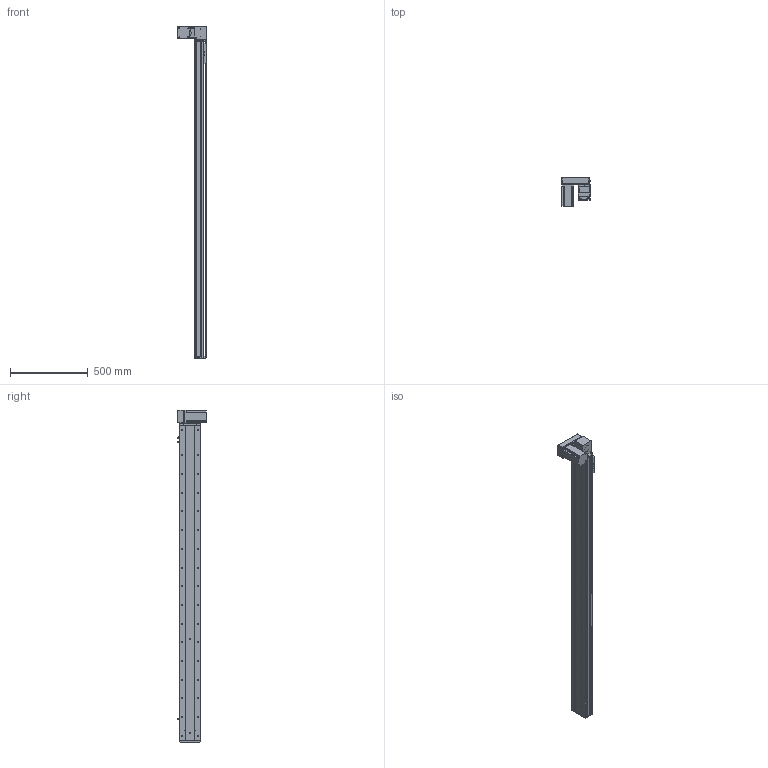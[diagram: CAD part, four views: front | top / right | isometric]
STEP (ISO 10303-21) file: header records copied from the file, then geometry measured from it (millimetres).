
FILE_DESCRIPTION (( 'STEP AP214' ), '1' );
FILE_NAME ('KSD130B-S1800-MRD-CM.STEP', '2019-09-23T01:59:29', ( '微软用户' ), ( '微软中国' ), 'SwSTEP 2.0', 'SolidWorks 2014', '' );
FILE_SCHEMA (( 'AUTOMOTIVE_DESIGN' ));
Length unit declared in the file: millimetre
Products named in the file (12): 130宽模组保护罩上下左右折-同步带; 台达ECMA－C20807AS伺服电机; 130宽模组马达安装板连板上下折丝杆同步带; 覜茼え100遵圉猾敕; U倰嫖萇EEㄜSX672; 130宽盖板半封闭同步带-1800行程; 130宽马达安装板同步带右-改镜向_默认<按加工>; 130宽马达安装板同步带半封闭; 130宽同步带安装座半封闭; 130宽端盖同步带半封闭; 130宽底板半封闭同步带-1800行程; KSD130B-S1800-MRD-CM
Assembly tree (13 placements, depth 2):
  KSD130B-S1800-MRD-CM
    130宽底板半封闭同步带-1800行程
    130宽端盖同步带半封闭
    130宽同步带安装座半封闭
    130宽马达安装板同步带半封闭
    130宽马达安装板同步带右-改镜向_默认<按加工>
    130宽盖板半封闭同步带-1800行程
    U倰嫖萇EEㄜSX672  x3
    覜茼え100遵圉猾敕
    130宽模组马达安装板连板上下折丝杆同步带
    台达ECMA－C20807AS伺服电机
    130宽模组保护罩上下左右折-同步带
Bounding box: 186 x 184.8 x 2133 mm (x, y, z)
Volume: 7124763.8 mm3; surface area: 2018533.5 mm2
Topology: 14 solids, 14 shells, 1727 faces, 5025 edges, 3181 vertices
Faces by surface type: cylinder 850, plane 650, cone 227
Entity records: 58827 total; most frequent: CARTESIAN_POINT 11362, DIRECTION 8871, ORIENTED_EDGE 8582, EDGE_CURVE 4291, AXIS2_PLACEMENT_3D 3270, VERTEX_POINT 2805, VECTOR 2331, LINE 2331
